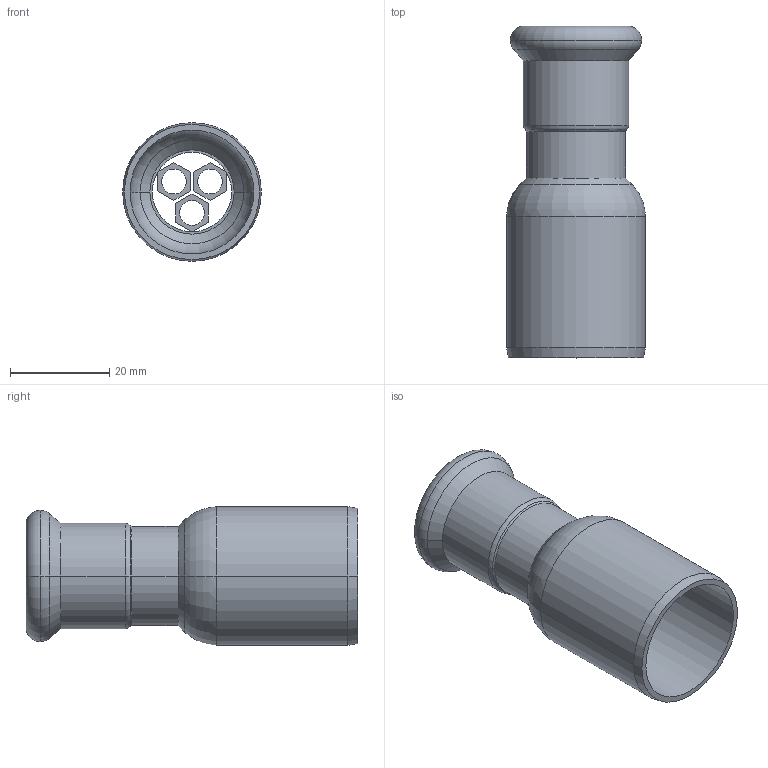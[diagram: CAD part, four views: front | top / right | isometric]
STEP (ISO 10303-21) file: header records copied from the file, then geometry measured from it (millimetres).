
FILE_DESCRIPTION(('OneSpaceDesigner STEP Export'),'2;1');
FILE_NAME('R2707 18x28.stp','2010-06-09T13:00:19',(''),(''),'OneSpace Designer STEP processor for AP214 (Solid Model)','OneSpace Modeling 15.00A 14-Mar-2007 (C) CoCreate Software GmbH','');
FILE_SCHEMA(('AUTOMOTIVE_DESIGN { 1 0 10303 214 1 1 1 1 }'));
Length unit declared in the file: millimetre
Products named in the file (2): R2707_18x28
Assembly tree (1 placements, depth 2):
  R2707_18x28
    R2707_18x28
Bounding box: 28 x 67 x 28 mm (x, y, z)
Volume: 8536.9 mm3; surface area: 10729.1 mm2
Topology: 1 solids, 1 shells, 77 faces, 181 edges, 112 vertices
Faces by surface type: plane 32, cylinder 25, cone 10, torus 10
Entity records: 1978 total; most frequent: ORIENTED_EDGE 362, CARTESIAN_POINT 314, DIRECTION 303, EDGE_CURVE 181, VERTEX_POINT 112, AXIS2_PLACEMENT_3D 101, VECTOR 101, LINE 101
